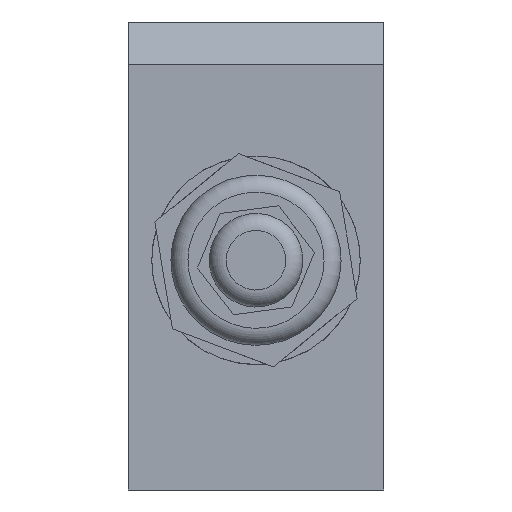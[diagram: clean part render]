
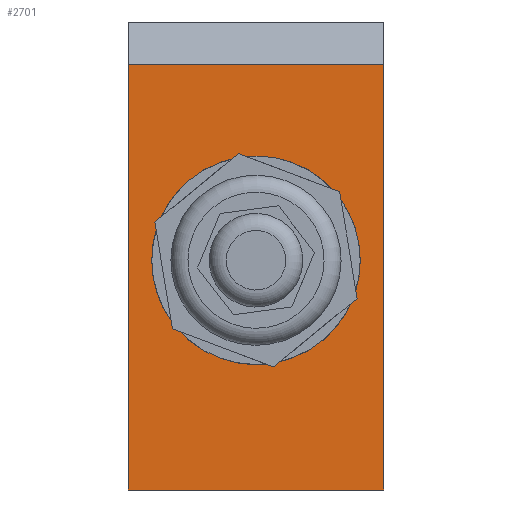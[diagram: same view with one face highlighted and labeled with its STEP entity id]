
A CAD part, left-side view. The second image highlights one B-rep face of the part: STEP entity #2701.
In plain terms, the highlighted planar face has unit normal (-1, 0, 0).
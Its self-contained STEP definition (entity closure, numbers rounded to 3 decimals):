
#37=LINE('',#5787,#133);
#41=LINE('',#5795,#137);
#46=LINE('',#5804,#142);
#49=LINE('',#5812,#145);
#50=LINE('',#5814,#146);
#51=LINE('',#5816,#147);
#52=LINE('',#5817,#148);
#53=LINE('',#5819,#149);
#54=LINE('',#5820,#150);
#55=LINE('',#5822,#151);
#56=LINE('',#5823,#152);
#57=LINE('',#5825,#153);
#58=LINE('',#5826,#154);
#59=LINE('',#5828,#155);
#60=LINE('',#5829,#156);
#61=LINE('',#5831,#157);
#133=VECTOR('',#4903,1000.);
#137=VECTOR('',#4909,1000.);
#142=VECTOR('',#4918,1000.);
#145=VECTOR('',#4927,1000.);
#146=VECTOR('',#4930,1000.);
#147=VECTOR('',#4931,1000.);
#148=VECTOR('',#4932,1000.);
#149=VECTOR('',#4933,1000.);
#150=VECTOR('',#4934,1000.);
#151=VECTOR('',#4935,1000.);
#152=VECTOR('',#4936,1000.);
#153=VECTOR('',#4937,1000.);
#154=VECTOR('',#4938,1000.);
#155=VECTOR('',#4939,1000.);
#156=VECTOR('',#4940,1000.);
#157=VECTOR('',#4941,1000.);
#511=ORIENTED_EDGE('',*,*,#1085,.F.);
#512=ORIENTED_EDGE('',*,*,#1081,.F.);
#513=ORIENTED_EDGE('',*,*,#1072,.T.);
#514=ORIENTED_EDGE('',*,*,#1076,.T.);
#515=ORIENTED_EDGE('',*,*,#1059,.T.);
#516=ORIENTED_EDGE('',*,*,#1086,.T.);
#517=ORIENTED_EDGE('',*,*,#1087,.T.);
#518=ORIENTED_EDGE('',*,*,#1069,.T.);
#519=ORIENTED_EDGE('',*,*,#1088,.T.);
#520=ORIENTED_EDGE('',*,*,#1089,.T.);
#521=ORIENTED_EDGE('',*,*,#1067,.T.);
#522=ORIENTED_EDGE('',*,*,#1090,.T.);
#523=ORIENTED_EDGE('',*,*,#1091,.T.);
#524=ORIENTED_EDGE('',*,*,#1065,.T.);
#525=ORIENTED_EDGE('',*,*,#1092,.T.);
#526=ORIENTED_EDGE('',*,*,#1093,.T.);
#527=ORIENTED_EDGE('',*,*,#1063,.T.);
#528=ORIENTED_EDGE('',*,*,#1094,.T.);
#529=ORIENTED_EDGE('',*,*,#1095,.T.);
#530=ORIENTED_EDGE('',*,*,#1061,.T.);
#531=ORIENTED_EDGE('',*,*,#1096,.T.);
#532=ORIENTED_EDGE('',*,*,#1097,.T.);
#1059=EDGE_CURVE('',#1376,#1374,#1628,.T.);
#1061=EDGE_CURVE('',#1378,#1377,#1630,.T.);
#1063=EDGE_CURVE('',#1380,#1379,#1632,.T.);
#1065=EDGE_CURVE('',#1382,#1381,#1634,.T.);
#1067=EDGE_CURVE('',#1384,#1383,#1636,.T.);
#1069=EDGE_CURVE('',#1375,#1385,#1638,.T.);
#1072=EDGE_CURVE('',#1389,#1388,#37,.T.);
#1076=EDGE_CURVE('',#1388,#1391,#41,.T.);
#1081=EDGE_CURVE('',#1389,#1394,#46,.T.);
#1085=EDGE_CURVE('',#1394,#1391,#49,.T.);
#1086=EDGE_CURVE('',#1374,#1396,#50,.T.);
#1087=EDGE_CURVE('',#1396,#1375,#51,.T.);
#1088=EDGE_CURVE('',#1385,#1397,#52,.T.);
#1089=EDGE_CURVE('',#1397,#1384,#53,.T.);
#1090=EDGE_CURVE('',#1383,#1398,#54,.T.);
#1091=EDGE_CURVE('',#1398,#1382,#55,.T.);
#1092=EDGE_CURVE('',#1381,#1399,#56,.T.);
#1093=EDGE_CURVE('',#1399,#1380,#57,.T.);
#1094=EDGE_CURVE('',#1379,#1400,#58,.T.);
#1095=EDGE_CURVE('',#1400,#1378,#59,.T.);
#1096=EDGE_CURVE('',#1377,#1401,#60,.T.);
#1097=EDGE_CURVE('',#1401,#1376,#61,.T.);
#1374=VERTEX_POINT('',#5757);
#1375=VERTEX_POINT('',#5758);
#1376=VERTEX_POINT('',#5760);
#1377=VERTEX_POINT('',#5762);
#1378=VERTEX_POINT('',#5764);
#1379=VERTEX_POINT('',#5766);
#1380=VERTEX_POINT('',#5768);
#1381=VERTEX_POINT('',#5770);
#1382=VERTEX_POINT('',#5772);
#1383=VERTEX_POINT('',#5774);
#1384=VERTEX_POINT('',#5776);
#1385=VERTEX_POINT('',#5778);
#1388=VERTEX_POINT('',#5786);
#1389=VERTEX_POINT('',#5788);
#1391=VERTEX_POINT('',#5794);
#1394=VERTEX_POINT('',#5805);
#1396=VERTEX_POINT('',#5815);
#1397=VERTEX_POINT('',#5818);
#1398=VERTEX_POINT('',#5821);
#1399=VERTEX_POINT('',#5824);
#1400=VERTEX_POINT('',#5827);
#1401=VERTEX_POINT('',#5830);
#1628=CIRCLE('',#4406,12.25);
#1630=CIRCLE('',#4408,12.25);
#1632=CIRCLE('',#4410,12.25);
#1634=CIRCLE('',#4412,12.25);
#1636=CIRCLE('',#4414,12.25);
#1638=CIRCLE('',#4416,12.25);
#1855=EDGE_LOOP('',(#511,#512,#513,#514));
#1856=EDGE_LOOP('',(#515,#516,#517,#518,#519,#520,#521,#522,#523,#524,#525,
#526,#527,#528,#529,#530,#531,#532));
#2255=FACE_BOUND('',#1855,.T.);
#2256=FACE_BOUND('',#1856,.T.);
#2577=PLANE('',#4426);
#2701=ADVANCED_FACE('',(#2255,#2256),#2577,.F.);
#4406=AXIS2_PLACEMENT_3D('',#5759,#4874,#4875);
#4408=AXIS2_PLACEMENT_3D('',#5763,#4878,#4879);
#4410=AXIS2_PLACEMENT_3D('',#5767,#4882,#4883);
#4412=AXIS2_PLACEMENT_3D('',#5771,#4886,#4887);
#4414=AXIS2_PLACEMENT_3D('',#5775,#4890,#4891);
#4416=AXIS2_PLACEMENT_3D('',#5779,#4894,#4895);
#4426=AXIS2_PLACEMENT_3D('',#5813,#4928,#4929);
#4874=DIRECTION('',(1.,0.,0.));
#4875=DIRECTION('',(0.,0.,1.));
#4878=DIRECTION('',(1.,0.,0.));
#4879=DIRECTION('',(0.,0.,1.));
#4882=DIRECTION('',(1.,0.,0.));
#4883=DIRECTION('',(0.,0.,1.));
#4886=DIRECTION('',(1.,0.,0.));
#4887=DIRECTION('',(0.,0.,1.));
#4890=DIRECTION('',(1.,0.,0.));
#4891=DIRECTION('',(0.,0.,1.));
#4894=DIRECTION('',(1.,0.,0.));
#4895=DIRECTION('',(0.,0.,1.));
#4903=DIRECTION('',(0.,-1.,0.));
#4909=DIRECTION('',(0.,0.,1.));
#4918=DIRECTION('',(0.,0.,1.));
#4927=DIRECTION('',(0.,-1.,0.));
#4928=DIRECTION('',(1.,0.,0.));
#4929=DIRECTION('',(0.,0.,-1.));
#4930=DIRECTION('',(0.,-0.936,-0.353));
#4931=DIRECTION('',(0.,-0.162,-0.987));
#4932=DIRECTION('',(0.,-0.162,-0.987));
#4933=DIRECTION('',(0.,0.773,-0.634));
#4934=DIRECTION('',(0.,0.773,-0.634));
#4935=DIRECTION('',(0.,0.936,0.353));
#4936=DIRECTION('',(0.,0.936,0.353));
#4937=DIRECTION('',(0.,0.162,0.987));
#4938=DIRECTION('',(0.,0.162,0.987));
#4939=DIRECTION('',(0.,-0.773,0.634));
#4940=DIRECTION('',(0.,-0.773,0.634));
#4941=DIRECTION('',(0.,-0.936,-0.353));
#5757=CARTESIAN_POINT('',(-70.,-8.926,7.89));
#5758=CARTESIAN_POINT('',(-70.,-9.98,6.604));
#5759=CARTESIAN_POINT('',(-70.,0.,-0.5));
#5760=CARTESIAN_POINT('',(-70.,1.162,11.695));
#5762=CARTESIAN_POINT('',(-70.,2.803,11.425));
#5763=CARTESIAN_POINT('',(-70.,0.,-0.5));
#5764=CARTESIAN_POINT('',(-70.,11.142,4.591));
#5766=CARTESIAN_POINT('',(-70.,11.729,3.035));
#5767=CARTESIAN_POINT('',(-70.,0.,-0.5));
#5768=CARTESIAN_POINT('',(-70.,9.98,-7.604));
#5770=CARTESIAN_POINT('',(-70.,8.926,-8.89));
#5771=CARTESIAN_POINT('',(-70.,0.,-0.5));
#5772=CARTESIAN_POINT('',(-70.,-1.162,-12.695));
#5774=CARTESIAN_POINT('',(-70.,-2.803,-12.425));
#5775=CARTESIAN_POINT('',(-70.,0.,-0.5));
#5776=CARTESIAN_POINT('',(-70.,-11.142,-5.591));
#5778=CARTESIAN_POINT('',(-70.,-11.729,-4.035));
#5779=CARTESIAN_POINT('',(-70.,0.,-0.5));
#5786=CARTESIAN_POINT('',(-70.,-15.,-27.5));
#5787=CARTESIAN_POINT('',(-70.,15.,-27.5));
#5788=CARTESIAN_POINT('',(-70.,15.,-27.5));
#5794=CARTESIAN_POINT('',(-70.,-15.,22.5));
#5795=CARTESIAN_POINT('',(-70.,-15.,-27.5));
#5804=CARTESIAN_POINT('',(-70.,15.,-27.5));
#5805=CARTESIAN_POINT('',(-70.,15.,22.5));
#5812=CARTESIAN_POINT('',(-70.,0.,22.5));
#5813=CARTESIAN_POINT('',(-70.,15.,-27.5));
#5814=CARTESIAN_POINT('',(-70.,-9.824,7.551));
#5815=CARTESIAN_POINT('',(-70.,-9.824,7.551));
#5816=CARTESIAN_POINT('',(-70.,-11.885,-4.982));
#5817=CARTESIAN_POINT('',(-70.,-11.885,-4.982));
#5818=CARTESIAN_POINT('',(-70.,-11.885,-4.982));
#5819=CARTESIAN_POINT('',(-70.,-2.061,-13.033));
#5820=CARTESIAN_POINT('',(-70.,-2.061,-13.033));
#5821=CARTESIAN_POINT('',(-70.,-2.061,-13.033));
#5822=CARTESIAN_POINT('',(-70.,9.824,-8.551));
#5823=CARTESIAN_POINT('',(-70.,9.824,-8.551));
#5824=CARTESIAN_POINT('',(-70.,9.824,-8.551));
#5825=CARTESIAN_POINT('',(-70.,11.885,3.982));
#5826=CARTESIAN_POINT('',(-70.,11.885,3.982));
#5827=CARTESIAN_POINT('',(-70.,11.885,3.982));
#5828=CARTESIAN_POINT('',(-70.,2.061,12.033));
#5829=CARTESIAN_POINT('',(-70.,2.061,12.033));
#5830=CARTESIAN_POINT('',(-70.,2.061,12.033));
#5831=CARTESIAN_POINT('',(-70.,-9.824,7.551));
